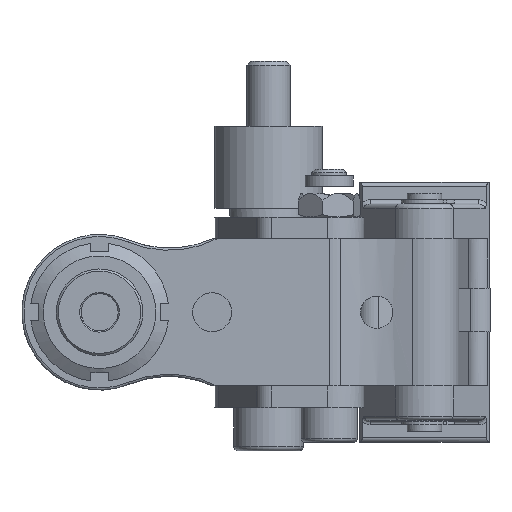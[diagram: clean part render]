
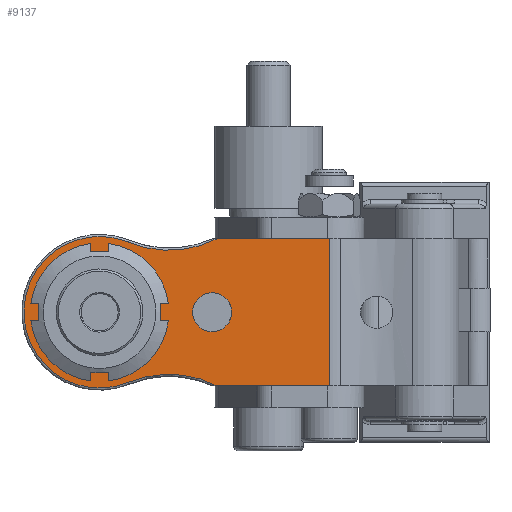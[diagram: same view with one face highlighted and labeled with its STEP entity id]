
A CAD part, left-side view. The second image highlights one B-rep face of the part: STEP entity #9137.
In plain terms, the highlighted planar face has unit normal (-1, 0.002, 0).
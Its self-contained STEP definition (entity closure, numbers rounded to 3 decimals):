
#365=LINE('',#13477,#991);
#368=LINE('',#13514,#994);
#371=LINE('',#13551,#997);
#376=LINE('',#13595,#1002);
#379=LINE('',#13605,#1005);
#380=LINE('',#13610,#1006);
#381=LINE('',#13615,#1007);
#384=LINE('',#13625,#1010);
#385=LINE('',#13630,#1011);
#389=LINE('',#13648,#1015);
#391=LINE('',#13657,#1017);
#392=LINE('',#13662,#1018);
#394=LINE('',#13675,#1020);
#395=LINE('',#13677,#1021);
#396=LINE('',#13679,#1022);
#991=VECTOR('',#10714,10.);
#994=VECTOR('',#10725,10.);
#997=VECTOR('',#10736,10.);
#1002=VECTOR('',#10749,10.);
#1005=VECTOR('',#10754,10.);
#1006=VECTOR('',#10757,10.);
#1007=VECTOR('',#10760,10.);
#1010=VECTOR('',#10765,10.);
#1011=VECTOR('',#10768,10.);
#1015=VECTOR('',#10786,10.);
#1017=VECTOR('',#10790,10.);
#1018=VECTOR('',#10793,10.);
#1020=VECTOR('',#10805,10.);
#1021=VECTOR('',#10806,10.);
#1022=VECTOR('',#10807,10.);
#1728=FACE_BOUND('',#2313,.T.);
#1729=FACE_BOUND('',#2314,.T.);
#1806=FACE_OUTER_BOUND('',#2312,.T.);
#2312=EDGE_LOOP('',(#5748,#5749,#5750,#5751,#5752,#5753));
#2313=EDGE_LOOP('',(#5754));
#2314=EDGE_LOOP('',(#5755,#5756,#5757,#5758,#5759,#5760,#5761,#5762,#5763,
#5764,#5765,#5766,#5767,#5768,#5769,#5770));
#2853=CIRCLE('',#9644,15.4);
#2855=CIRCLE('',#9648,15.4);
#2857=CIRCLE('',#9652,15.4);
#2859=CIRCLE('',#9656,15.4);
#2865=CIRCLE('',#9677,24.5);
#2866=CIRCLE('',#9678,24.5);
#2867=CIRCLE('',#9679,17.5);
#2868=CIRCLE('',#9680,4.5);
#3384=VERTEX_POINT('',#13450);
#3385=VERTEX_POINT('',#13461);
#3387=VERTEX_POINT('',#13476);
#3391=VERTEX_POINT('',#13487);
#3392=VERTEX_POINT('',#13498);
#3394=VERTEX_POINT('',#13513);
#3398=VERTEX_POINT('',#13524);
#3399=VERTEX_POINT('',#13535);
#3401=VERTEX_POINT('',#13550);
#3405=VERTEX_POINT('',#13561);
#3406=VERTEX_POINT('',#13572);
#3410=VERTEX_POINT('',#13593);
#3413=VERTEX_POINT('',#13603);
#3416=VERTEX_POINT('',#13623);
#3420=VERTEX_POINT('',#13646);
#3423=VERTEX_POINT('',#13655);
#3424=VERTEX_POINT('',#13671);
#3425=VERTEX_POINT('',#13672);
#3426=VERTEX_POINT('',#13674);
#3427=VERTEX_POINT('',#13676);
#3428=VERTEX_POINT('',#13678);
#3429=VERTEX_POINT('',#13680);
#3430=VERTEX_POINT('',#13683);
#4277=EDGE_CURVE('',#3384,#3385,#2853,.T.);
#4280=EDGE_CURVE('',#3387,#3385,#365,.T.);
#4285=EDGE_CURVE('',#3391,#3392,#2855,.T.);
#4288=EDGE_CURVE('',#3394,#3392,#368,.T.);
#4293=EDGE_CURVE('',#3398,#3399,#2857,.T.);
#4296=EDGE_CURVE('',#3401,#3399,#371,.T.);
#4301=EDGE_CURVE('',#3405,#3406,#2859,.T.);
#4307=EDGE_CURVE('',#3405,#3410,#376,.T.);
#4311=EDGE_CURVE('',#3398,#3413,#379,.T.);
#4313=EDGE_CURVE('',#3413,#3394,#380,.T.);
#4315=EDGE_CURVE('',#3410,#3401,#381,.T.);
#4319=EDGE_CURVE('',#3391,#3416,#384,.T.);
#4321=EDGE_CURVE('',#3416,#3387,#385,.T.);
#4329=EDGE_CURVE('',#3384,#3420,#389,.T.);
#4332=EDGE_CURVE('',#3420,#3423,#391,.T.);
#4334=EDGE_CURVE('',#3423,#3406,#392,.T.);
#4338=EDGE_CURVE('',#3424,#3425,#2865,.T.);
#4339=EDGE_CURVE('',#3424,#3426,#394,.T.);
#4340=EDGE_CURVE('',#3426,#3427,#395,.T.);
#4341=EDGE_CURVE('',#3427,#3428,#396,.T.);
#4342=EDGE_CURVE('',#3429,#3428,#2866,.T.);
#4343=EDGE_CURVE('',#3425,#3429,#2867,.T.);
#4344=EDGE_CURVE('',#3430,#3430,#2868,.T.);
#5748=ORIENTED_EDGE('',*,*,#4338,.F.);
#5749=ORIENTED_EDGE('',*,*,#4339,.T.);
#5750=ORIENTED_EDGE('',*,*,#4340,.T.);
#5751=ORIENTED_EDGE('',*,*,#4341,.T.);
#5752=ORIENTED_EDGE('',*,*,#4342,.F.);
#5753=ORIENTED_EDGE('',*,*,#4343,.F.);
#5754=ORIENTED_EDGE('',*,*,#4344,.T.);
#5755=ORIENTED_EDGE('',*,*,#4301,.F.);
#5756=ORIENTED_EDGE('',*,*,#4307,.T.);
#5757=ORIENTED_EDGE('',*,*,#4315,.T.);
#5758=ORIENTED_EDGE('',*,*,#4296,.T.);
#5759=ORIENTED_EDGE('',*,*,#4293,.F.);
#5760=ORIENTED_EDGE('',*,*,#4311,.T.);
#5761=ORIENTED_EDGE('',*,*,#4313,.T.);
#5762=ORIENTED_EDGE('',*,*,#4288,.T.);
#5763=ORIENTED_EDGE('',*,*,#4285,.F.);
#5764=ORIENTED_EDGE('',*,*,#4319,.T.);
#5765=ORIENTED_EDGE('',*,*,#4321,.T.);
#5766=ORIENTED_EDGE('',*,*,#4280,.T.);
#5767=ORIENTED_EDGE('',*,*,#4277,.F.);
#5768=ORIENTED_EDGE('',*,*,#4329,.T.);
#5769=ORIENTED_EDGE('',*,*,#4332,.T.);
#5770=ORIENTED_EDGE('',*,*,#4334,.T.);
#8376=PLANE('',#9676);
#9137=ADVANCED_FACE('',(#1806,#1728,#1729),#8376,.T.);
#9644=AXIS2_PLACEMENT_3D('',#13462,#10708,#10709);
#9648=AXIS2_PLACEMENT_3D('',#13499,#10719,#10720);
#9652=AXIS2_PLACEMENT_3D('',#13536,#10730,#10731);
#9656=AXIS2_PLACEMENT_3D('',#13573,#10741,#10742);
#9676=AXIS2_PLACEMENT_3D('',#13670,#10801,#10802);
#9677=AXIS2_PLACEMENT_3D('',#13673,#10803,#10804);
#9678=AXIS2_PLACEMENT_3D('',#13681,#10808,#10809);
#9679=AXIS2_PLACEMENT_3D('',#13682,#10810,#10811);
#9680=AXIS2_PLACEMENT_3D('',#13684,#10812,#10813);
#10708=DIRECTION('center_axis',(-1.,0.002,
0.));
#10709=DIRECTION('ref_axis',(0.,0.,-1.));
#10714=DIRECTION('',(0.,0.,1.));
#10719=DIRECTION('center_axis',(-1.,0.002,
0.));
#10720=DIRECTION('ref_axis',(0.,0.,-1.));
#10725=DIRECTION('',(0.002,1.,0.));
#10730=DIRECTION('center_axis',(-1.,0.002,
0.));
#10731=DIRECTION('ref_axis',(0.,0.,-1.));
#10736=DIRECTION('',(0.,0.,-1.));
#10741=DIRECTION('center_axis',(-1.,0.002,
0.));
#10742=DIRECTION('ref_axis',(0.,0.,-1.));
#10749=DIRECTION('',(0.,0.,1.));
#10754=DIRECTION('',(-0.002,-1.,0.));
#10757=DIRECTION('',(0.,0.,1.));
#10760=DIRECTION('',(0.002,1.,0.));
#10765=DIRECTION('',(0.,0.,-1.));
#10768=DIRECTION('',(-0.002,-1.,0.));
#10786=DIRECTION('',(0.002,1.,0.));
#10790=DIRECTION('',(0.,0.,-1.));
#10793=DIRECTION('',(-0.002,-1.,0.));
#10801=DIRECTION('center_axis',(-1.,0.002,
0.));
#10802=DIRECTION('ref_axis',(0.,0.,
1.));
#10803=DIRECTION('center_axis',(-1.,0.002,
0.));
#10804=DIRECTION('ref_axis',(0.,-0.019,1.));
#10805=DIRECTION('',(-0.002,-1.,0.));
#10806=DIRECTION('',(0.,0.,1.));
#10807=DIRECTION('',(0.002,1.,0.));
#10808=DIRECTION('center_axis',(-1.,0.002,
0.));
#10809=DIRECTION('ref_axis',(0.,-0.019,-1.));
#10810=DIRECTION('center_axis',(1.,-0.002,
0.));
#10811=DIRECTION('ref_axis',(0.002,1.,0.));
#10812=DIRECTION('center_axis',(1.,-0.002,
0.));
#10813=DIRECTION('ref_axis',(-0.002,-1.,0.));
#13450=CARTESIAN_POINT('',(-30.164,45.749,21.5));
#13461=CARTESIAN_POINT('',(-30.134,59.018,34.77));
#13462=CARTESIAN_POINT('Origin',(-30.13,61.018,19.5));
#13476=CARTESIAN_POINT('',(-30.134,59.018,33.5));
#13477=CARTESIAN_POINT('',(-30.134,59.018,27.437));
#13487=CARTESIAN_POINT('',(-30.125,63.018,34.77));
#13498=CARTESIAN_POINT('',(-30.095,76.288,21.5));
#13499=CARTESIAN_POINT('Origin',(-30.13,61.018,19.5));
#13513=CARTESIAN_POINT('',(-30.098,75.018,21.5));
#13514=CARTESIAN_POINT('',(-30.172,42.455,21.5));
#13524=CARTESIAN_POINT('',(-30.095,76.288,17.5));
#13535=CARTESIAN_POINT('',(-30.125,63.018,4.23));
#13536=CARTESIAN_POINT('Origin',(-30.13,61.018,19.5));
#13550=CARTESIAN_POINT('',(-30.125,63.018,5.5));
#13551=CARTESIAN_POINT('',(-30.125,63.018,11.563));
#13561=CARTESIAN_POINT('',(-30.134,59.018,4.23));
#13572=CARTESIAN_POINT('',(-30.164,45.749,17.5));
#13573=CARTESIAN_POINT('Origin',(-30.13,61.018,19.5));
#13593=CARTESIAN_POINT('',(-30.134,59.018,5.5));
#13595=CARTESIAN_POINT('',(-30.134,59.018,12.5));
#13603=CARTESIAN_POINT('',(-30.098,75.018,17.5));
#13605=CARTESIAN_POINT('',(-30.174,41.518,17.5));
#13610=CARTESIAN_POINT('',(-30.098,75.018,20.5));
#13615=CARTESIAN_POINT('',(-30.187,35.518,5.5));
#13623=CARTESIAN_POINT('',(-30.125,63.018,33.5));
#13625=CARTESIAN_POINT('',(-30.125,63.018,26.5));
#13630=CARTESIAN_POINT('',(-30.192,33.518,33.5));
#13646=CARTESIAN_POINT('',(-30.161,47.018,21.5));
#13648=CARTESIAN_POINT('',(-30.206,27.518,21.5));
#13655=CARTESIAN_POINT('',(-30.161,47.018,17.5));
#13657=CARTESIAN_POINT('',(-30.161,47.018,18.5));
#13662=CARTESIAN_POINT('',(-30.208,26.581,17.5));
#13670=CARTESIAN_POINT('Origin',(-30.25,8.018,19.5));
#13671=CARTESIAN_POINT('',(-30.191,33.87,2.5));
#13672=CARTESIAN_POINT('',(-30.145,54.344,3.323));
#13673=CARTESIAN_POINT('Origin',(-30.166,45.,-19.326));
#13674=CARTESIAN_POINT('',(-30.25,8.018,2.5));
#13675=CARTESIAN_POINT('',(-30.287,-8.144,2.5));
#13676=CARTESIAN_POINT('',(-30.25,8.018,36.5));
#13677=CARTESIAN_POINT('',(-30.25,8.018,19.5));
#13678=CARTESIAN_POINT('',(-30.191,33.87,36.5));
#13679=CARTESIAN_POINT('',(-30.219,21.518,36.5));
#13680=CARTESIAN_POINT('',(-30.145,54.344,35.677));
#13681=CARTESIAN_POINT('Origin',(-30.166,45.,58.326));
#13682=CARTESIAN_POINT('Origin',(-30.13,61.018,19.5));
#13683=CARTESIAN_POINT('',(-30.178,39.518,19.5));
#13684=CARTESIAN_POINT('Origin',(-30.189,35.018,19.5));
